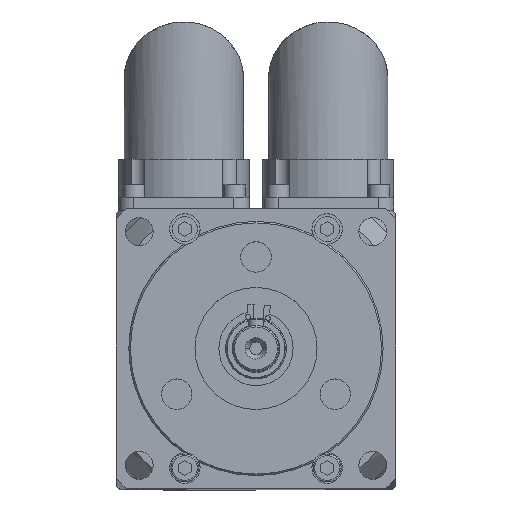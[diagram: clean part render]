
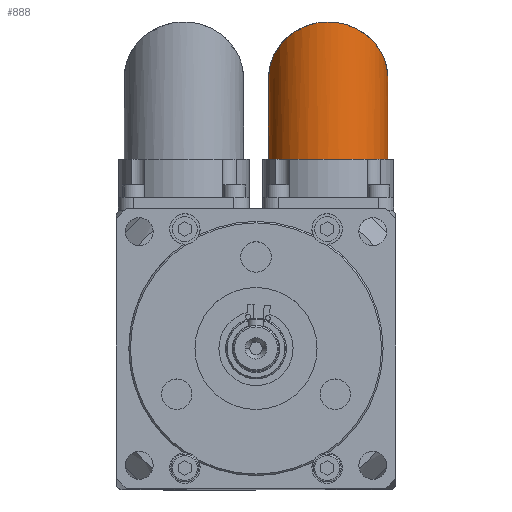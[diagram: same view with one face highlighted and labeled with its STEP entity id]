
A CAD part, top view. The second image highlights one B-rep face of the part: STEP entity #888.
In plain terms, the highlighted cylindrical face has radius 11.75 mm (diameter 23.5 mm), a partial arc.
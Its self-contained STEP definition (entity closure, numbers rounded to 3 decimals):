
#6 = CARTESIAN_POINT ( 'NONE',  ( 2.45, 75.588, -135.6 ) ) ;
#8 = CARTESIAN_POINT ( 'NONE',  ( 25.95, 75.588, -135.6 ) ) ;
#9 = CARTESIAN_POINT ( 'NONE',  ( 25.95, 53.412, -159.1 ) ) ;
#23 = CARTESIAN_POINT ( 'NONE',  ( 2.45, 64.5, -159.1 ) ) ;
#26 = CARTESIAN_POINT ( 'NONE',  ( 25.95, 64.5, -159.1 ) ) ;
#27 = DIRECTION ( 'NONE',  ( 0., -1., 0. ) ) ;
#38 = DIRECTION ( 'NONE',  ( 0., -1., 0. ) ) ;
#202 = CARTESIAN_POINT ( 'NONE',  ( 2.45, 53.412, -159.1 ) ) ;
#888 = ADVANCED_FACE ( 'NONE', ( #8953 ), #8940, .T. ) ;
#1084 = AXIS2_PLACEMENT_3D ( 'NONE', #10958, #10971, #10122 ) ;
#3139 = CIRCLE ( 'NONE', #3400, 11.75 ) ;
#3400 = AXIS2_PLACEMENT_3D ( 'NONE', #12283, #12279, #12306 ) ;
#3953 = CARTESIAN_POINT ( 'NONE',  ( 2.45, 53.412, -159.1 ) ) ;
#4024 = CARTESIAN_POINT ( 'NONE',  ( 2.45, 37.5, -159.1 ) ) ;
#4322 = CARTESIAN_POINT ( 'NONE',  ( 25.95, 53.412, -159.1 ) ) ;
#4499 = CARTESIAN_POINT ( 'NONE',  ( 25.95, 37.5, -159.1 ) ) ;
#5388 = ORIENTED_EDGE ( 'NONE', *, *, #9542, .F. ) ;
#5559 =( BOUNDED_CURVE ( )  B_SPLINE_CURVE ( 3, ( #202, #6, #8, #9 ),
 .UNSPECIFIED., .F., .F. ) 
 B_SPLINE_CURVE_WITH_KNOTS ( ( 4, 4 ),
 ( 1.571, 4.712 ),
 .UNSPECIFIED. ) 
 CURVE ( )  GEOMETRIC_REPRESENTATION_ITEM ( )  RATIONAL_B_SPLINE_CURVE ( ( 1., 0.333, 0.333, 1. ) ) 
 REPRESENTATION_ITEM ( '' )  );
#6419 = ORIENTED_EDGE ( 'NONE', *, *, #9548, .T. ) ;
#6912 = ORIENTED_EDGE ( 'NONE', *, *, #11599, .T. ) ;
#6917 = ORIENTED_EDGE ( 'NONE', *, *, #9552, .F. ) ;
#7127 = VERTEX_POINT ( 'NONE', #4024 ) ;
#7272 = VERTEX_POINT ( 'NONE', #4322 ) ;
#7342 = VERTEX_POINT ( 'NONE', #4499 ) ;
#7490 = VERTEX_POINT ( 'NONE', #3953 ) ;
#8940 = CYLINDRICAL_SURFACE ( 'NONE', #1084, 11.75 ) ;
#8953 = FACE_OUTER_BOUND ( 'NONE', #13396, .T. ) ;
#9542 = EDGE_CURVE ( 'NONE', #7490, #7272, #5559, .T. ) ;
#9548 = EDGE_CURVE ( 'NONE', #7490, #7127, #13248, .T. ) ;
#9552 = EDGE_CURVE ( 'NONE', #7272, #7342, #13104, .T. ) ;
#10122 = DIRECTION ( 'NONE',  ( -1., 0., 0. ) ) ;
#10958 = CARTESIAN_POINT ( 'NONE',  ( 14.2, 64.5, -159.1 ) ) ;
#10971 = DIRECTION ( 'NONE',  ( 0., -1., 0. ) ) ;
#11599 = EDGE_CURVE ( 'NONE', #7127, #7342, #3139, .T. ) ;
#12279 = DIRECTION ( 'NONE',  ( 0., 1., 0. ) ) ;
#12283 = CARTESIAN_POINT ( 'NONE',  ( 14.2, 37.5, -159.1 ) ) ;
#12306 = DIRECTION ( 'NONE',  ( 1., 0., 0. ) ) ;
#13088 = VECTOR ( 'NONE', #38, 1000. ) ;
#13090 = VECTOR ( 'NONE', #27, 1000. ) ;
#13104 = LINE ( 'NONE', #26, #13088 ) ;
#13248 = LINE ( 'NONE', #23, #13090 ) ;
#13396 = EDGE_LOOP ( 'NONE', ( #6917, #5388, #6419, #6912 ) ) ;
